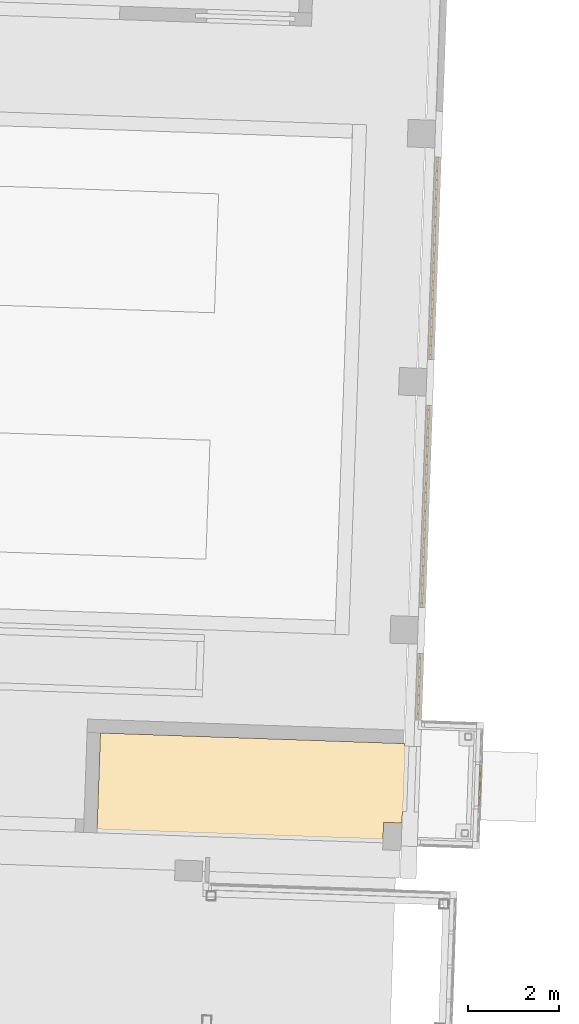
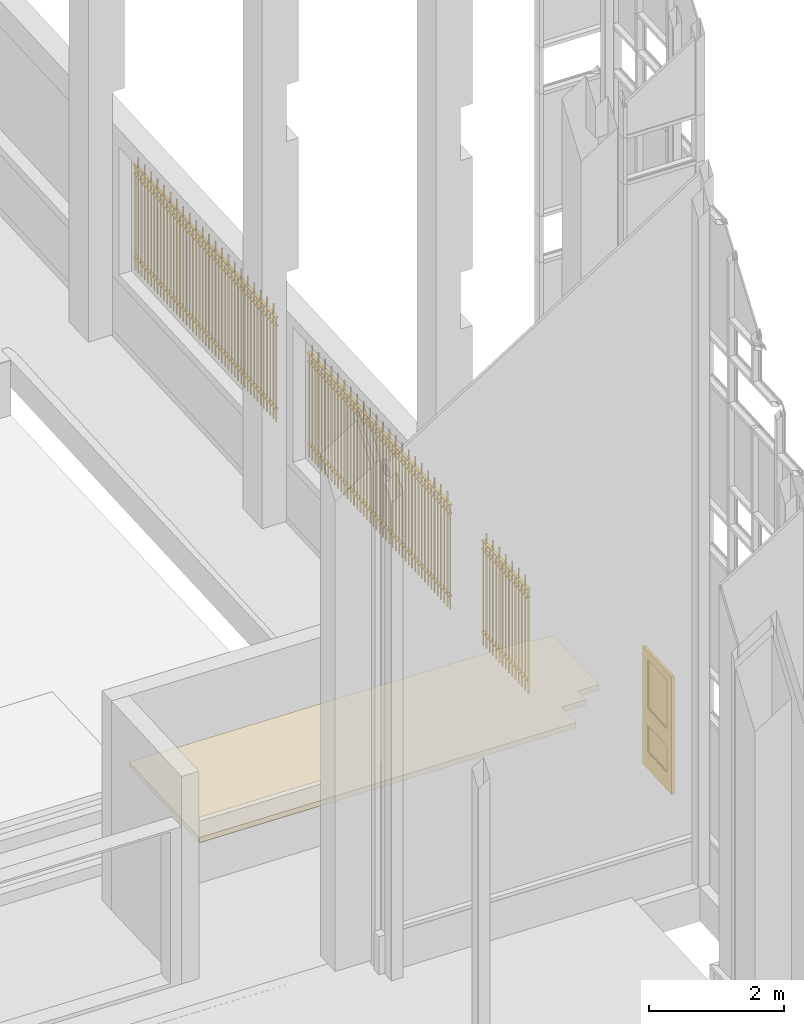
# One storey, part 41 of 44: 3 railings, 1 covering, 1 door, 1 element without a shape of its own.
"""IFC2X3 building model written with IfcOpenShell, lengths in feet."""

from ifc_helpers import new_model, entity, si_unit, converted_unit, derived_unit, direction, frame, frame_2d, origin, origin_2d_with_axis, place, context, subcontext, project, spatial, polyline, rectangle, outline, extrude, source, transform, mapped, material, material_list, layer, layer_set, layer_usage, type_object, type_shapes, element, aggregate, save


model = new_model("IFC2X3")

# Units and contexts
model_context = context("Model", 3, precision=0.0001, world=origin(), true_north=direction((0.999390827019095, 0.0348994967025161)))
body_context = subcontext(model_context, "Body", "Model", "MODEL_VIEW")
ifc_project = project(units=[converted_unit("LENGTHUNIT", "FOOT", entity("IfcRatioMeasure", 0.3048), si_unit("LENGTHUNIT", "METRE"), dimensions=[1, 0, 0, 0, 0, 0, 0]), converted_unit("AREAUNIT", "SQUARE FOOT", entity("IfcRatioMeasure", 0.09290304), si_unit("AREAUNIT", "SQUARE_METRE"), dimensions=[2, 0, 0, 0, 0, 0, 0]), converted_unit("VOLUMEUNIT", "CUBIC FOOT", entity("IfcRatioMeasure", 0.028316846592), si_unit("VOLUMEUNIT", "CUBIC_METRE"), dimensions=[3, 0, 0, 0, 0, 0, 0]), converted_unit("PLANEANGLEUNIT", "DEGREE", entity("IfcRatioMeasure", 0.0174532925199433), si_unit("PLANEANGLEUNIT", "RADIAN"), dimensions=[0, 0, 0, 0, 0, 0, 0]), si_unit("MASSUNIT", "GRAM", prefix="KILO"), si_unit("TIMEUNIT", "SECOND"), si_unit("FREQUENCYUNIT", "HERTZ"), si_unit("THERMODYNAMICTEMPERATUREUNIT", "DEGREE_CELSIUS"), derived_unit("THERMALTRANSMITTANCEUNIT", [(si_unit("MASSUNIT", "GRAM", prefix="KILO"), 1), (si_unit("THERMODYNAMICTEMPERATUREUNIT", "KELVIN"), -1), (si_unit("TIMEUNIT", "SECOND"), -3)]), derived_unit("VOLUMETRICFLOWRATEUNIT", [(si_unit("LENGTHUNIT", "METRE"), 3), (si_unit("TIMEUNIT", "SECOND"), -1)]), si_unit("ELECTRICCURRENTUNIT", "AMPERE"), si_unit("ELECTRICVOLTAGEUNIT", "VOLT"), si_unit("POWERUNIT", "WATT"), si_unit("FORCEUNIT", "NEWTON"), si_unit("ILLUMINANCEUNIT", "LUX"), si_unit("LUMINOUSFLUXUNIT", "LUMEN"), si_unit("LUMINOUSINTENSITYUNIT", "CANDELA"), derived_unit("USERDEFINED", [(si_unit("MASSUNIT", "GRAM", prefix="KILO"), -1), (si_unit("LENGTHUNIT", "METRE"), -2), (si_unit("TIMEUNIT", "SECOND"), 3), (si_unit("LUMINOUSFLUXUNIT", "LUMEN"), 1)]), derived_unit("LINEARVELOCITYUNIT", [(si_unit("LENGTHUNIT", "METRE"), 1), (si_unit("TIMEUNIT", "SECOND"), -1)]), si_unit("PRESSUREUNIT", "PASCAL"), derived_unit("USERDEFINED", [(si_unit("LENGTHUNIT", "METRE"), -2), (si_unit("MASSUNIT", "GRAM", prefix="KILO"), 1), (si_unit("TIMEUNIT", "SECOND"), -2)])], contexts=[model_context])

# Site, building, storey
site_placement = place(None, frame((892.518771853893, 322.38689265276, 0.00393700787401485), z_axis=(0.0, 0.0, 1.0), x_axis=(0.0348994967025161, 0.999390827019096, 0.0)))
site = spatial("IfcSite", under=ifc_project, at=site_placement, Name="Default", CompositionType="ELEMENT")
building_placement = place(site_placement, origin())
building = spatial("IfcBuilding", under=site, at=building_placement, CompositionType="ELEMENT")
storey_placement = place(building_placement, frame((0.0, 0.0, 544.75)))
storey = spatial("IfcBuildingStorey", under=building, at=storey_placement, Name="Exist Garage - Ground Level", CompositionType="ELEMENT", Elevation=544.75)

# Curtain wall, door
curtain_wall_type = type_object("IfcCurtainWallType", Name="Curtain Wall:(Existing) Curtainwall - Blank", PredefinedType="NOTDEFINED")
curtain_wall_placement = place(storey_placement, frame((0.0, 0.0, -544.75)))
curtain_wall = element("IfcCurtainWall", 1, at=curtain_wall_placement, inside=storey, type_object=curtain_wall_type, Name="Curtain Wall:(Existing) Curtainwall - Blank", ObjectType="Curtain Wall:(Existing) Curtainwall - Blank")
ifc_material_1 = material(Name="Door Glazing")
ifc_material_2 = material(Name="Metal - Aluminum")
ifc_material_list_1 = material_list([ifc_material_1, ifc_material_2])
ifc_material_list_2 = material_list([ifc_material_1, ifc_material_2])
door_style = type_object("IfcDoorStyle", Name="Default", ConstructionType="NOTDEFINED", OperationType="NOTDEFINED", ParameterTakesPrecedence=False, Sizeable=False, material=ifc_material_list_2)
shared_shape = source(origin(), body_context, "Body", "SweptSolid", [
    extrude(rectangle(XDim=0.0208333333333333, YDim=2.0, at=origin_2d_with_axis()), frame((0.0, 0.0, 1.0), z_axis=(0.0, 0.0, 1.0), x_axis=(0.0, 1.0, 0.0)), (0.0, 0.0, 1.0), 1.58333333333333),
    extrude(outline(polyline([(-0.791666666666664, -1.0), (0.791666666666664, -1.0), (0.791666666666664, 1.0), (-0.791666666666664, 1.0), (-0.791666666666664, -1.0)]), holes=[polyline([(0.760416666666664, -0.968749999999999), (-0.760416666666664, -0.968749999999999), (-0.760416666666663, 0.96875), (0.760416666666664, 0.968749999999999), (0.760416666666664, -0.968749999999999)])]), frame((0.0, 0.0104166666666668, 1.79166666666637), z_axis=(0.0, 1.0, 0.0), x_axis=(0.0, 0.0, -1.0)), (0.0, 0.0, 1.0), 0.03125),
    extrude(outline(polyline([(-0.791666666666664, -1.0), (0.791666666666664, -1.0), (0.791666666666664, 1.0), (-0.791666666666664, 1.0), (-0.791666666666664, -1.0)]), holes=[polyline([(0.760416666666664, -0.968749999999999), (-0.760416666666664, -0.968749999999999), (-0.760416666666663, 0.96875), (0.760416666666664, 0.968749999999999), (0.760416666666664, -0.968749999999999)])]), frame((0.0, -0.0416666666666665, 1.79166666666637), z_axis=(0.0, 1.0, 0.0), x_axis=(0.0, 0.0, -1.0)), (0.0, 0.0, 1.0), 0.03125),
    extrude(rectangle(XDim=0.0208333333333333, YDim=2.0, at=origin_2d_with_axis()), frame((0.0, 0.0, 3.58333333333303), z_axis=(0.0, 0.0, 1.0), x_axis=(0.0, 1.0, 0.0)), (0.0, 0.0, 1.0), 2.91666666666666),
    extrude(outline(polyline([(-1.0, -1.45833333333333), (1.0, -1.45833333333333), (1.0, 1.45833333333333), (-1.0, 1.45833333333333), (-1.0, -1.45833333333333)]), holes=[polyline([(0.968749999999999, -1.42708333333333), (-0.96875, -1.42708333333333), (-0.96875, 1.42708333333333), (0.968749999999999, 1.42708333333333), (0.968749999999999, -1.42708333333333)])]), frame((0.0, -0.0416666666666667, 5.04166666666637), z_axis=(0.0, 1.0, 0.0), x_axis=(1.0, 0.0, 0.0)), (0.0, 0.0, 1.0), 0.03125),
    extrude(outline(polyline([(-1.0, -1.45833333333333), (1.0, -1.45833333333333), (1.0, 1.45833333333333), (-1.0, 1.45833333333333), (-1.0, -1.45833333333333)]), holes=[polyline([(0.968749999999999, -1.42708333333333), (-0.96875, -1.42708333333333), (-0.96875, 1.42708333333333), (0.968749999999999, 1.42708333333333), (0.968749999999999, -1.42708333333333)])]), frame((0.0, 0.0104166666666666, 5.04166666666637), z_axis=(0.0, 1.0, 0.0), x_axis=(1.0, 0.0, 0.0)), (0.0, 0.0, 1.0), 0.03125),
    extrude(outline(polyline([(-3.5, -1.5), (3.5, -1.5), (3.5, 1.5), (-3.5, 1.5), (-3.5, -1.5)]), holes=[polyline([(-3.0, -1.0), (-3.0, 1.0), (-0.0833333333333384, 1.0), (-0.0833333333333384, -1.0), (-3.0, -1.0)]), polyline([(0.916666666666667, 1.0), (2.5, 1.0), (2.5, -1.0), (0.916666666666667, -1.0), (0.916666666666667, 1.0)])]), frame((0.0, -0.072916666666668, 3.4999999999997), z_axis=(0.0, 1.0, 0.0), x_axis=(0.0, 0.0, -1.0)), (0.0, 0.0, 1.0), 0.145833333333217),
])
type_shapes(door_style, [shared_shape])
door_placement = place(curtain_wall_placement, frame((109.843961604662, 230.888953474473, 544.75), z_axis=(0.0, 0.0, 1.0), x_axis=(-1.0, 0.0, 0.0)))
door = element("IfcDoor", 2, at=door_placement, type_object=door_style, material=ifc_material_list_1, Name="08_Curtain Wall_75G Door Panel:Default", ObjectType="Default", OverallHeight=7.00000000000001, OverallWidth=3.66666666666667, context=body_context, shape_type="MappedRepresentation", body=[
    mapped(shared_shape, transform((0.0, 0.0, 0.0), scale=1.0)),
])
aggregate(curtain_wall, [door])

# Covering
ifc_material_3 = material(Name="Finishes - Interior - Gypsum Wall Board_Ceiling")
ifc_layer_1 = layer(ifc_material_3, 0.0833333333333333)
ifc_material_4 = material(Name="Metal - Stud Layer")
ifc_layer_2 = layer(ifc_material_4, 0.125)
ifc_layer_3 = layer(ifc_material_3, 0.0520833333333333)
ifc_layer_4 = layer(ifc_material_3, 0.0520833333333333)
ifc_layer_set = layer_set([ifc_layer_1, ifc_layer_2, ifc_layer_3, ifc_layer_4], Name="Compound Ceiling:Rated Shaft")
ifc_layer_usage = layer_usage(ifc_layer_set, "AXIS3", "NEGATIVE", 0.0)
covering_placement = place(storey_placement, origin())
element("IfcCovering", 3, at=covering_placement, inside=storey, material=ifc_layer_usage, Name="Compound Ceiling:Rated Shaft", ObjectType="Compound Ceiling:Rated Shaft", PredefinedType="CEILING", context=body_context, shape_type="SweptSolid", body=[
    extrude(outline(polyline([(-17.6289028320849, -3.6236659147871), (3.11555904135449, -3.6236659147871), (3.11555904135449, -2.13929091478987), (4.44889237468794, -2.13929091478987), (4.44889237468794, -1.30783002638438), (5.6155590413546, -1.30783002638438), (5.6155590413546, 3.44310619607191), (4.44889237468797, 3.44310619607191), (4.44889237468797, 3.62768065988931), (-17.6289028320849, 3.62768065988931), (-17.6289028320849, -3.6236659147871)])), frame((109.066583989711, 240.879512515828, 8.0), z_axis=(0.0, 0.0, 1.0), x_axis=(0.0, -1.0, 0.0)), (0.0, 0.0, 1.0), 0.3125),
])

# Railings
railing_1_placement = place(storey_placement, origin())
element("IfcRailing", 4, at=railing_1_placement, inside=storey, Name="Railing:Garage Security Grille 6'-10\" High", ObjectType="Railing:Garage Security Grille 6'-10\" High", PredefinedType="NOTDEFINED", context=body_context, shape_type="SweptSolid", body=[
    extrude(rectangle(XDim=0.0625, YDim=0.0625, at=origin_2d_with_axis()), frame((154.926356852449, 235.548139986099, 3.66666666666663)), (0.0, 0.0, 1.0), 6.83333333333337),
    extrude(rectangle(XDim=0.0625, YDim=0.0625, at=origin_2d_with_axis()), frame((154.593023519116, 235.548139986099, 3.66666666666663)), (0.0, 0.0, 1.0), 6.16666666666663),
    extrude(rectangle(XDim=0.0625, YDim=0.0625, at=origin_2d_with_axis()), frame((154.259690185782, 235.548139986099, 3.66666666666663)), (0.0, 0.0, 1.0), 6.83333333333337),
    extrude(rectangle(XDim=0.0625, YDim=0.0625, at=origin_2d_with_axis()), frame((153.926356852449, 235.548139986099, 3.66666666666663)), (0.0, 0.0, 1.0), 6.16666666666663),
    extrude(rectangle(XDim=0.0625, YDim=0.0625, at=origin_2d_with_axis()), frame((153.593023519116, 235.548139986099, 3.66666666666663)), (0.0, 0.0, 1.0), 6.83333333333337),
    extrude(rectangle(XDim=0.0625, YDim=0.0625, at=origin_2d_with_axis()), frame((153.259690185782, 235.548139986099, 3.66666666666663)), (0.0, 0.0, 1.0), 6.16666666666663),
    extrude(rectangle(XDim=0.0625, YDim=0.0625, at=origin_2d_with_axis()), frame((152.926356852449, 235.548139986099, 3.66666666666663)), (0.0, 0.0, 1.0), 6.83333333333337),
    extrude(rectangle(XDim=0.0625, YDim=0.0625, at=origin_2d_with_axis()), frame((152.593023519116, 235.548139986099, 3.66666666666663)), (0.0, 0.0, 1.0), 6.16666666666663),
    extrude(rectangle(XDim=0.0625, YDim=0.0625, at=origin_2d_with_axis()), frame((152.259690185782, 235.548139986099, 3.66666666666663)), (0.0, 0.0, 1.0), 6.83333333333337),
    extrude(rectangle(XDim=0.0625, YDim=0.0625, at=origin_2d_with_axis()), frame((151.926356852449, 235.548139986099, 3.66666666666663)), (0.0, 0.0, 1.0), 6.16666666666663),
    extrude(rectangle(XDim=0.0625, YDim=0.0625, at=origin_2d_with_axis()), frame((151.593023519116, 235.548139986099, 3.66666666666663)), (0.0, 0.0, 1.0), 6.83333333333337),
    extrude(rectangle(XDim=0.0625, YDim=0.0625, at=origin_2d_with_axis()), frame((151.259690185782, 235.548139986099, 3.66666666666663)), (0.0, 0.0, 1.0), 6.16666666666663),
    extrude(rectangle(XDim=0.0625, YDim=0.0625, at=origin_2d_with_axis()), frame((150.926356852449, 235.548139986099, 3.66666666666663)), (0.0, 0.0, 1.0), 6.83333333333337),
    extrude(rectangle(XDim=0.0625, YDim=0.0625, at=origin_2d_with_axis()), frame((150.593023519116, 235.548139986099, 3.66666666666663)), (0.0, 0.0, 1.0), 6.16666666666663),
    extrude(rectangle(XDim=0.0625, YDim=0.0625, at=origin_2d_with_axis()), frame((150.259690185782, 235.548139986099, 3.66666666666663)), (0.0, 0.0, 1.0), 6.83333333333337),
    extrude(rectangle(XDim=0.0625, YDim=0.0625, at=origin_2d_with_axis()), frame((149.926356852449, 235.548139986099, 3.66666666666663)), (0.0, 0.0, 1.0), 6.16666666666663),
    extrude(rectangle(XDim=0.0625, YDim=0.0625, at=origin_2d_with_axis()), frame((149.593023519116, 235.548139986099, 3.66666666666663)), (0.0, 0.0, 1.0), 6.83333333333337),
    extrude(rectangle(XDim=0.0625, YDim=0.0625, at=origin_2d_with_axis()), frame((149.259690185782, 235.548139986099, 3.66666666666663)), (0.0, 0.0, 1.0), 6.16666666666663),
    extrude(rectangle(XDim=0.0625, YDim=0.0625, at=origin_2d_with_axis()), frame((148.926356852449, 235.548139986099, 3.66666666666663)), (0.0, 0.0, 1.0), 6.83333333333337),
    extrude(rectangle(XDim=0.0625, YDim=0.0625, at=origin_2d_with_axis()), frame((148.593023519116, 235.548139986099, 3.66666666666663)), (0.0, 0.0, 1.0), 6.16666666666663),
    extrude(rectangle(XDim=0.0625, YDim=0.0625, at=origin_2d_with_axis()), frame((148.259690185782, 235.548139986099, 3.66666666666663)), (0.0, 0.0, 1.0), 6.83333333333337),
    extrude(rectangle(XDim=0.0625, YDim=0.0625, at=origin_2d_with_axis()), frame((147.926356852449, 235.548139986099, 3.66666666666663)), (0.0, 0.0, 1.0), 6.16666666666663),
    extrude(rectangle(XDim=0.0625, YDim=0.0625, at=origin_2d_with_axis()), frame((147.593023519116, 235.548139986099, 3.66666666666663)), (0.0, 0.0, 1.0), 6.83333333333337),
    extrude(rectangle(XDim=0.0625, YDim=0.0625, at=origin_2d_with_axis()), frame((147.259690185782, 235.548139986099, 3.66666666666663)), (0.0, 0.0, 1.0), 6.16666666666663),
    extrude(rectangle(XDim=0.0625, YDim=0.0625, at=origin_2d_with_axis()), frame((146.926356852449, 235.548139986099, 3.66666666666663)), (0.0, 0.0, 1.0), 6.83333333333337),
    extrude(rectangle(XDim=0.0625, YDim=0.0625, at=origin_2d_with_axis()), frame((146.593023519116, 235.548139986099, 3.66666666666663)), (0.0, 0.0, 1.0), 6.16666666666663),
    extrude(rectangle(XDim=0.0625, YDim=0.0625, at=origin_2d_with_axis()), frame((146.259690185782, 235.548139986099, 3.66666666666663)), (0.0, 0.0, 1.0), 6.83333333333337),
    extrude(rectangle(XDim=0.0625, YDim=0.0625, at=origin_2d_with_axis()), frame((145.926356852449, 235.548139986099, 3.66666666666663)), (0.0, 0.0, 1.0), 6.16666666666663),
    extrude(rectangle(XDim=0.0625, YDim=0.0625, at=origin_2d_with_axis()), frame((145.593023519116, 235.548139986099, 3.66666666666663)), (0.0, 0.0, 1.0), 6.83333333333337),
    extrude(rectangle(XDim=0.0625, YDim=0.0625, at=origin_2d_with_axis()), frame((145.259690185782, 235.548139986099, 3.66666666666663)), (0.0, 0.0, 1.0), 6.16666666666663),
    extrude(rectangle(XDim=0.0625, YDim=0.0625, at=origin_2d_with_axis()), frame((144.926356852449, 235.548139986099, 3.66666666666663)), (0.0, 0.0, 1.0), 6.83333333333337),
    extrude(rectangle(XDim=0.0625, YDim=0.0625, at=origin_2d_with_axis()), frame((144.593023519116, 235.548139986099, 3.66666666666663)), (0.0, 0.0, 1.0), 6.16666666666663),
    extrude(rectangle(XDim=0.0625, YDim=0.0625, at=origin_2d_with_axis()), frame((144.259690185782, 235.548139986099, 3.66666666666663)), (0.0, 0.0, 1.0), 6.83333333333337),
    extrude(rectangle(XDim=0.0625, YDim=0.0625, at=origin_2d_with_axis()), frame((143.926356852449, 235.548139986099, 3.66666666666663)), (0.0, 0.0, 1.0), 6.16666666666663),
    extrude(rectangle(XDim=0.0625, YDim=0.0625, at=origin_2d_with_axis()), frame((143.593023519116, 235.548139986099, 3.66666666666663)), (0.0, 0.0, 1.0), 6.83333333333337),
    extrude(rectangle(XDim=0.0625, YDim=0.0625, at=origin_2d_with_axis()), frame((143.259690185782, 235.548139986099, 3.66666666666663)), (0.0, 0.0, 1.0), 6.16666666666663),
    extrude(rectangle(XDim=0.0625, YDim=0.0625, at=origin_2d_with_axis()), frame((142.926356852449, 235.548139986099, 3.66666666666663)), (0.0, 0.0, 1.0), 6.83333333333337),
    extrude(rectangle(XDim=0.0625, YDim=0.0625, at=origin_2d_with_axis()), frame((142.593023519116, 235.548139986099, 3.66666666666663)), (0.0, 0.0, 1.0), 6.16666666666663),
    extrude(rectangle(XDim=0.0625, YDim=0.0625, at=origin_2d_with_axis()), frame((142.259690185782, 235.548139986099, 3.66666666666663)), (0.0, 0.0, 1.0), 6.83333333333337),
    extrude(rectangle(XDim=0.0625, YDim=0.0625, at=origin_2d_with_axis()), frame((141.926356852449, 235.548139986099, 3.66666666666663)), (0.0, 0.0, 1.0), 6.16666666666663),
    extrude(rectangle(XDim=0.0625, YDim=0.0625, at=origin_2d_with_axis()), frame((141.593023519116, 235.548139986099, 3.66666666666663)), (0.0, 0.0, 1.0), 6.83333333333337),
    extrude(rectangle(XDim=0.0625, YDim=0.0625, at=origin_2d_with_axis()), frame((141.259690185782, 235.548139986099, 3.66666666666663)), (0.0, 0.0, 1.0), 6.16666666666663),
    extrude(rectangle(XDim=0.0625, YDim=0.0625, at=origin_2d_with_axis()), frame((140.926356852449, 235.548139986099, 3.66666666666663)), (0.0, 0.0, 1.0), 6.83333333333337),
    extrude(rectangle(XDim=0.0625, YDim=0.0625, at=origin_2d_with_axis()), frame((155.218023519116, 235.548139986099, 3.66666666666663)), (0.0, 0.0, 1.0), 6.16666666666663),
    extrude(rectangle(XDim=0.0625, YDim=0.0625, at=origin_2d_with_axis()), frame((140.634690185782, 235.548139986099, 3.66666666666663)), (0.0, 0.0, 1.0), 6.16666666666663),
    extrude(rectangle(XDim=14.6666666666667, YDim=0.166666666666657, at=frame_2d((-1.4210854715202e-14, 0.0), x_axis=(1.0, 0.0))), frame((147.926356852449, 235.548139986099, 9.83333333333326)), (0.0, 0.0, 1.0), 0.0833333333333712),
    extrude(rectangle(XDim=14.6666666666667, YDim=0.166666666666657, at=frame_2d((-1.4210854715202e-14, 0.0), x_axis=(1.0, 0.0))), frame((147.926356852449, 235.548139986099, 4.41666666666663)), (0.0, 0.0, 1.0), 0.0833333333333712),
    extrude(rectangle(XDim=14.6666666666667, YDim=0.166666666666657, at=frame_2d((-1.4210854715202e-14, 0.0), x_axis=(1.0, 0.0))), frame((147.926356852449, 235.548139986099, 9.33333333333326)), (0.0, 0.0, 1.0), 0.0833333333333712),
])
railing_2_placement = place(storey_placement, origin())
element("IfcRailing", 5, at=railing_2_placement, inside=storey, Name="Railing:Garage Security Grille 6'-10\" High", ObjectType="Railing:Garage Security Grille 6'-10\" High", PredefinedType="NOTDEFINED", context=body_context, shape_type="SweptSolid", body=[
    extrude(rectangle(XDim=0.0625, YDim=0.0625, at=origin_2d_with_axis()), frame((136.926356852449, 235.548139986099, 3.66666666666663)), (0.0, 0.0, 1.0), 6.83333333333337),
    extrude(rectangle(XDim=0.0625, YDim=0.0625, at=origin_2d_with_axis()), frame((136.593023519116, 235.548139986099, 3.66666666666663)), (0.0, 0.0, 1.0), 6.16666666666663),
    extrude(rectangle(XDim=0.0625, YDim=0.0625, at=origin_2d_with_axis()), frame((136.259690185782, 235.548139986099, 3.66666666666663)), (0.0, 0.0, 1.0), 6.83333333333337),
    extrude(rectangle(XDim=0.0625, YDim=0.0625, at=origin_2d_with_axis()), frame((135.926356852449, 235.548139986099, 3.66666666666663)), (0.0, 0.0, 1.0), 6.16666666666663),
    extrude(rectangle(XDim=0.0625, YDim=0.0625, at=origin_2d_with_axis()), frame((135.593023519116, 235.548139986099, 3.66666666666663)), (0.0, 0.0, 1.0), 6.83333333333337),
    extrude(rectangle(XDim=0.0625, YDim=0.0625, at=origin_2d_with_axis()), frame((135.259690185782, 235.548139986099, 3.66666666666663)), (0.0, 0.0, 1.0), 6.16666666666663),
    extrude(rectangle(XDim=0.0625, YDim=0.0625, at=origin_2d_with_axis()), frame((134.926356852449, 235.548139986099, 3.66666666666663)), (0.0, 0.0, 1.0), 6.83333333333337),
    extrude(rectangle(XDim=0.0625, YDim=0.0625, at=origin_2d_with_axis()), frame((134.593023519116, 235.548139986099, 3.66666666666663)), (0.0, 0.0, 1.0), 6.16666666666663),
    extrude(rectangle(XDim=0.0625, YDim=0.0625, at=origin_2d_with_axis()), frame((134.259690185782, 235.548139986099, 3.66666666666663)), (0.0, 0.0, 1.0), 6.83333333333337),
    extrude(rectangle(XDim=0.0625, YDim=0.0625, at=origin_2d_with_axis()), frame((133.926356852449, 235.548139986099, 3.66666666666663)), (0.0, 0.0, 1.0), 6.16666666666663),
    extrude(rectangle(XDim=0.0625, YDim=0.0625, at=origin_2d_with_axis()), frame((133.593023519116, 235.548139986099, 3.66666666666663)), (0.0, 0.0, 1.0), 6.83333333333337),
    extrude(rectangle(XDim=0.0625, YDim=0.0625, at=origin_2d_with_axis()), frame((133.259690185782, 235.548139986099, 3.66666666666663)), (0.0, 0.0, 1.0), 6.16666666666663),
    extrude(rectangle(XDim=0.0625, YDim=0.0625, at=origin_2d_with_axis()), frame((132.926356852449, 235.548139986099, 3.66666666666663)), (0.0, 0.0, 1.0), 6.83333333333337),
    extrude(rectangle(XDim=0.0625, YDim=0.0625, at=origin_2d_with_axis()), frame((132.593023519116, 235.548139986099, 3.66666666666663)), (0.0, 0.0, 1.0), 6.16666666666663),
    extrude(rectangle(XDim=0.0625, YDim=0.0625, at=origin_2d_with_axis()), frame((132.259690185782, 235.548139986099, 3.66666666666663)), (0.0, 0.0, 1.0), 6.83333333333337),
    extrude(rectangle(XDim=0.0625, YDim=0.0625, at=origin_2d_with_axis()), frame((131.926356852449, 235.548139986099, 3.66666666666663)), (0.0, 0.0, 1.0), 6.16666666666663),
    extrude(rectangle(XDim=0.0625, YDim=0.0625, at=origin_2d_with_axis()), frame((131.593023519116, 235.548139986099, 3.66666666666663)), (0.0, 0.0, 1.0), 6.83333333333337),
    extrude(rectangle(XDim=0.0625, YDim=0.0625, at=origin_2d_with_axis()), frame((131.259690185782, 235.548139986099, 3.66666666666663)), (0.0, 0.0, 1.0), 6.16666666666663),
    extrude(rectangle(XDim=0.0625, YDim=0.0625, at=origin_2d_with_axis()), frame((130.926356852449, 235.548139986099, 3.66666666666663)), (0.0, 0.0, 1.0), 6.83333333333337),
    extrude(rectangle(XDim=0.0625, YDim=0.0625, at=origin_2d_with_axis()), frame((130.593023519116, 235.548139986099, 3.66666666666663)), (0.0, 0.0, 1.0), 6.16666666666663),
    extrude(rectangle(XDim=0.0625, YDim=0.0625, at=origin_2d_with_axis()), frame((130.259690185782, 235.548139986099, 3.66666666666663)), (0.0, 0.0, 1.0), 6.83333333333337),
    extrude(rectangle(XDim=0.0625, YDim=0.0625, at=origin_2d_with_axis()), frame((129.926356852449, 235.548139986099, 3.66666666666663)), (0.0, 0.0, 1.0), 6.16666666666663),
    extrude(rectangle(XDim=0.0625, YDim=0.0625, at=origin_2d_with_axis()), frame((129.593023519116, 235.548139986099, 3.66666666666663)), (0.0, 0.0, 1.0), 6.83333333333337),
    extrude(rectangle(XDim=0.0625, YDim=0.0625, at=origin_2d_with_axis()), frame((129.259690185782, 235.548139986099, 3.66666666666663)), (0.0, 0.0, 1.0), 6.16666666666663),
    extrude(rectangle(XDim=0.0625, YDim=0.0625, at=origin_2d_with_axis()), frame((128.926356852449, 235.548139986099, 3.66666666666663)), (0.0, 0.0, 1.0), 6.83333333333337),
    extrude(rectangle(XDim=0.0625, YDim=0.0625, at=origin_2d_with_axis()), frame((128.593023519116, 235.548139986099, 3.66666666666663)), (0.0, 0.0, 1.0), 6.16666666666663),
    extrude(rectangle(XDim=0.0625, YDim=0.0625, at=origin_2d_with_axis()), frame((128.259690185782, 235.548139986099, 3.66666666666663)), (0.0, 0.0, 1.0), 6.83333333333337),
    extrude(rectangle(XDim=0.0625, YDim=0.0625, at=origin_2d_with_axis()), frame((127.926356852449, 235.548139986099, 3.66666666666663)), (0.0, 0.0, 1.0), 6.16666666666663),
    extrude(rectangle(XDim=0.0625, YDim=0.0625, at=origin_2d_with_axis()), frame((127.593023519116, 235.548139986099, 3.66666666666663)), (0.0, 0.0, 1.0), 6.83333333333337),
    extrude(rectangle(XDim=0.0625, YDim=0.0625, at=origin_2d_with_axis()), frame((127.259690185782, 235.548139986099, 3.66666666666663)), (0.0, 0.0, 1.0), 6.16666666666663),
    extrude(rectangle(XDim=0.0625, YDim=0.0625, at=origin_2d_with_axis()), frame((126.926356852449, 235.548139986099, 3.66666666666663)), (0.0, 0.0, 1.0), 6.83333333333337),
    extrude(rectangle(XDim=0.0625, YDim=0.0625, at=origin_2d_with_axis()), frame((126.593023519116, 235.548139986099, 3.66666666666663)), (0.0, 0.0, 1.0), 6.16666666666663),
    extrude(rectangle(XDim=0.0625, YDim=0.0625, at=origin_2d_with_axis()), frame((126.259690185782, 235.548139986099, 3.66666666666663)), (0.0, 0.0, 1.0), 6.83333333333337),
    extrude(rectangle(XDim=0.0625, YDim=0.0625, at=origin_2d_with_axis()), frame((125.926356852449, 235.548139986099, 3.66666666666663)), (0.0, 0.0, 1.0), 6.16666666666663),
    extrude(rectangle(XDim=0.0625, YDim=0.0625, at=origin_2d_with_axis()), frame((125.593023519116, 235.548139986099, 3.66666666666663)), (0.0, 0.0, 1.0), 6.83333333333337),
    extrude(rectangle(XDim=0.0625, YDim=0.0625, at=origin_2d_with_axis()), frame((125.259690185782, 235.548139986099, 3.66666666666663)), (0.0, 0.0, 1.0), 6.16666666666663),
    extrude(rectangle(XDim=0.0625, YDim=0.0625, at=origin_2d_with_axis()), frame((124.926356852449, 235.548139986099, 3.66666666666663)), (0.0, 0.0, 1.0), 6.83333333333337),
    extrude(rectangle(XDim=0.0625, YDim=0.0625, at=origin_2d_with_axis()), frame((124.593023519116, 235.548139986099, 3.66666666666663)), (0.0, 0.0, 1.0), 6.16666666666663),
    extrude(rectangle(XDim=0.0625, YDim=0.0625, at=origin_2d_with_axis()), frame((124.259690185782, 235.548139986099, 3.66666666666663)), (0.0, 0.0, 1.0), 6.83333333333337),
    extrude(rectangle(XDim=0.0625, YDim=0.0625, at=origin_2d_with_axis()), frame((123.926356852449, 235.548139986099, 3.66666666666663)), (0.0, 0.0, 1.0), 6.16666666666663),
    extrude(rectangle(XDim=0.0625, YDim=0.0625, at=origin_2d_with_axis()), frame((123.593023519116, 235.548139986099, 3.66666666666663)), (0.0, 0.0, 1.0), 6.83333333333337),
    extrude(rectangle(XDim=0.0625, YDim=0.0625, at=origin_2d_with_axis()), frame((123.259690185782, 235.548139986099, 3.66666666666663)), (0.0, 0.0, 1.0), 6.16666666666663),
    extrude(rectangle(XDim=0.0625, YDim=0.0625, at=origin_2d_with_axis()), frame((122.926356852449, 235.548139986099, 3.66666666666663)), (0.0, 0.0, 1.0), 6.83333333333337),
    extrude(rectangle(XDim=0.0625, YDim=0.0625, at=origin_2d_with_axis()), frame((137.218023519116, 235.548139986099, 3.66666666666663)), (0.0, 0.0, 1.0), 6.16666666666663),
    extrude(rectangle(XDim=0.0625, YDim=0.0625, at=origin_2d_with_axis()), frame((122.634690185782, 235.548139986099, 3.66666666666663)), (0.0, 0.0, 1.0), 6.16666666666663),
    extrude(rectangle(XDim=14.6666666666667, YDim=0.166666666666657, at=frame_2d((1.4210854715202e-14, 0.0), x_axis=(1.0, 0.0))), frame((129.926356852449, 235.548139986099, 9.83333333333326)), (0.0, 0.0, 1.0), 0.0833333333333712),
    extrude(rectangle(XDim=14.6666666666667, YDim=0.166666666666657, at=frame_2d((1.4210854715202e-14, 0.0), x_axis=(1.0, 0.0))), frame((129.926356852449, 235.548139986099, 4.41666666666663)), (0.0, 0.0, 1.0), 0.0833333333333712),
    extrude(rectangle(XDim=14.6666666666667, YDim=0.166666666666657, at=frame_2d((1.4210854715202e-14, 0.0), x_axis=(1.0, 0.0))), frame((129.926356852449, 235.548139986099, 9.33333333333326)), (0.0, 0.0, 1.0), 0.0833333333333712),
])
railing_3_placement = place(storey_placement, origin())
element("IfcRailing", 6, at=railing_3_placement, inside=storey, Name="Railing:Garage Security Grille 6'-10\" High", ObjectType="Railing:Garage Security Grille 6'-10\" High", PredefinedType="NOTDEFINED", context=body_context, shape_type="SweptSolid", body=[
    extrude(rectangle(XDim=0.0625, YDim=0.0625, at=origin_2d_with_axis()), frame((119.218023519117, 235.548139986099, 3.66666666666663)), (0.0, 0.0, 1.0), 6.16666666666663),
    extrude(rectangle(XDim=0.0625, YDim=0.0625, at=origin_2d_with_axis()), frame((118.884690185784, 235.548139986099, 3.66666666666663)), (0.0, 0.0, 1.0), 6.83333333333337),
    extrude(rectangle(XDim=0.0625, YDim=0.0625, at=origin_2d_with_axis()), frame((118.551356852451, 235.548139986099, 3.66666666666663)), (0.0, 0.0, 1.0), 6.16666666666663),
    extrude(rectangle(XDim=0.0625, YDim=0.0625, at=origin_2d_with_axis()), frame((118.218023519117, 235.548139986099, 3.66666666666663)), (0.0, 0.0, 1.0), 6.83333333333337),
    extrude(rectangle(XDim=0.0625, YDim=0.0625, at=origin_2d_with_axis()), frame((117.884690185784, 235.548139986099, 3.66666666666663)), (0.0, 0.0, 1.0), 6.16666666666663),
    extrude(rectangle(XDim=0.0625, YDim=0.0625, at=origin_2d_with_axis()), frame((117.551356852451, 235.548139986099, 3.66666666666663)), (0.0, 0.0, 1.0), 6.83333333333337),
    extrude(rectangle(XDim=0.0625, YDim=0.0625, at=origin_2d_with_axis()), frame((117.218023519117, 235.548139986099, 3.66666666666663)), (0.0, 0.0, 1.0), 6.16666666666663),
    extrude(rectangle(XDim=0.0625, YDim=0.0625, at=origin_2d_with_axis()), frame((116.884690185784, 235.548139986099, 3.66666666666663)), (0.0, 0.0, 1.0), 6.83333333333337),
    extrude(rectangle(XDim=0.0625, YDim=0.0625, at=origin_2d_with_axis()), frame((116.551356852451, 235.548139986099, 3.66666666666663)), (0.0, 0.0, 1.0), 6.16666666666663),
    extrude(rectangle(XDim=0.0625, YDim=0.0625, at=origin_2d_with_axis()), frame((116.218023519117, 235.548139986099, 3.66666666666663)), (0.0, 0.0, 1.0), 6.83333333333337),
    extrude(rectangle(XDim=0.0625, YDim=0.0625, at=origin_2d_with_axis()), frame((115.884690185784, 235.548139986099, 3.66666666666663)), (0.0, 0.0, 1.0), 6.16666666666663),
    extrude(rectangle(XDim=0.0625, YDim=0.0625, at=origin_2d_with_axis()), frame((115.551356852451, 235.548139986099, 3.66666666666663)), (0.0, 0.0, 1.0), 6.83333333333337),
    extrude(rectangle(XDim=0.0625, YDim=0.0625, at=origin_2d_with_axis()), frame((115.218023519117, 235.548139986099, 3.66666666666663)), (0.0, 0.0, 1.0), 6.16666666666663),
    extrude(rectangle(XDim=0.0625, YDim=0.0625, at=origin_2d_with_axis()), frame((114.884690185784, 235.548139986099, 3.66666666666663)), (0.0, 0.0, 1.0), 6.83333333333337),
    extrude(rectangle(XDim=0.0625, YDim=0.0625, at=origin_2d_with_axis()), frame((114.551356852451, 235.548139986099, 3.66666666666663)), (0.0, 0.0, 1.0), 6.16666666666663),
    extrude(rectangle(XDim=0.0625, YDim=0.0625, at=origin_2d_with_axis()), frame((119.218959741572, 235.548139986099, 3.66666666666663)), (0.0, 0.0, 1.0), 6.16666666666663),
    extrude(rectangle(XDim=0.0625, YDim=0.0625, at=origin_2d_with_axis()), frame((114.550420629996, 235.548139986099, 3.66666666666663)), (0.0, 0.0, 1.0), 6.16666666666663),
    extrude(rectangle(XDim=4.7518724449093, YDim=0.166666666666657, at=frame_2d((7.105427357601e-15, 0.0), x_axis=(1.0, 0.0))), frame((116.884690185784, 235.548139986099, 9.83333333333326)), (0.0, 0.0, 1.0), 0.0833333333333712),
    extrude(rectangle(XDim=4.7518724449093, YDim=0.166666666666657, at=frame_2d((7.105427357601e-15, 0.0), x_axis=(1.0, 0.0))), frame((116.884690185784, 235.548139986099, 4.41666666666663)), (0.0, 0.0, 1.0), 0.0833333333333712),
    extrude(rectangle(XDim=4.7518724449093, YDim=0.166666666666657, at=frame_2d((7.105427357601e-15, 0.0), x_axis=(1.0, 0.0))), frame((116.884690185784, 235.548139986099, 9.33333333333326)), (0.0, 0.0, 1.0), 0.0833333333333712),
])

save(model, "model.ifc")
